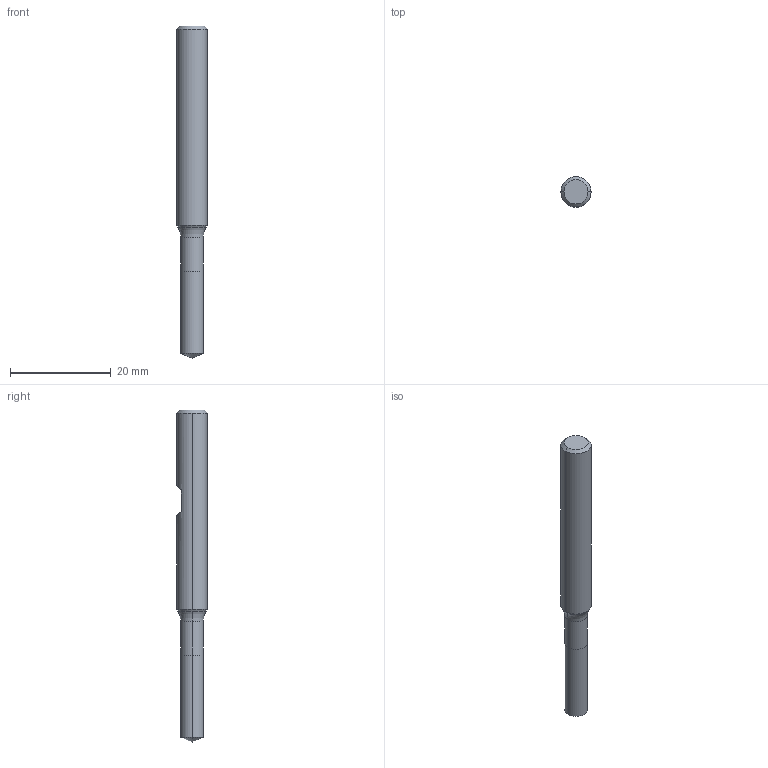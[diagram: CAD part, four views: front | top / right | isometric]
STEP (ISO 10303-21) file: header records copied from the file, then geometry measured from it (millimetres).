
FILE_DESCRIPTION (( 'STEP AP214' ), '1' );
FILE_NAME ('843.045.10_3D-model.step', '2022-02-24T02:57:39', ( '' ), ( '' ), 'SwSTEP 2.0', 'SolidWorks 2020', '' );
FILE_SCHEMA (( 'AUTOMOTIVE_DESIGN' ));
Length unit declared in the file: millimetre
Products named in the file (3): CUT-3D^Baugr20; NOCUT-3D^Baugr20; 843.045.10_3D-model
Assembly tree (2 placements, depth 2):
  843.045.10_3D-model
    CUT-3D^Baugr20
    NOCUT-3D^Baugr20
Bounding box: 6 x 6 x 66 mm (x, y, z)
Volume: 1522.9 mm3; surface area: 1182.9 mm2
Topology: 2 solids, 2 shells, 20 faces, 38 edges, 21 vertices
Faces by surface type: cone 6, cylinder 6, plane 6, torus 2
Entity records: 608 total; most frequent: DIRECTION 108, CARTESIAN_POINT 91, ORIENTED_EDGE 72, AXIS2_PLACEMENT_3D 46, EDGE_CURVE 36, EDGE_LOOP 21, VERTEX_POINT 21, FACE_OUTER_BOUND 20
